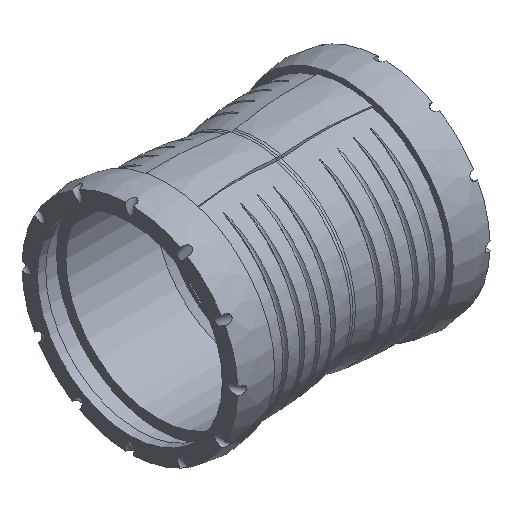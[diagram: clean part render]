
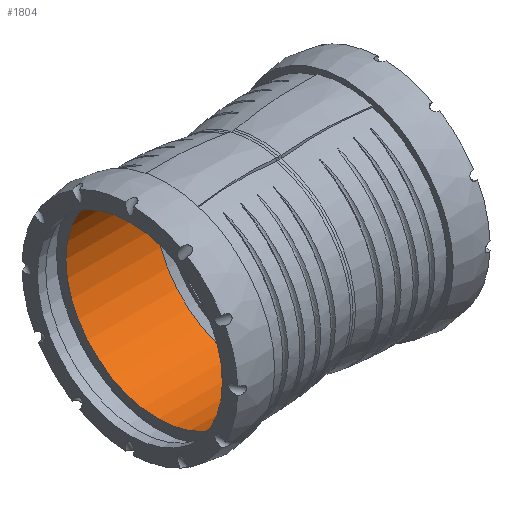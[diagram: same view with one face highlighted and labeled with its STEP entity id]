
A CAD part, isometric view. The second image highlights one B-rep face of the part: STEP entity #1804.
In plain terms, the highlighted cylindrical face has radius 45.45 mm (diameter 90.9 mm), a full revolution.
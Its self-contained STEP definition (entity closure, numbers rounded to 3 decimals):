
#361=FACE_OUTER_BOUND('',#587,.T.);
#398=CYLINDRICAL_SURFACE('',#1952,45.45);
#443=FACE_BOUND('',#588,.T.);
#587=EDGE_LOOP('',(#1563));
#588=EDGE_LOOP('',(#1564));
#661=CIRCLE('',#1951,45.45);
#662=CIRCLE('',#1953,45.45);
#837=VERTEX_POINT('',#7762);
#838=VERTEX_POINT('',#7765);
#1083=EDGE_CURVE('',#837,#837,#661,.T.);
#1084=EDGE_CURVE('',#838,#838,#662,.T.);
#1563=ORIENTED_EDGE('',*,*,#1083,.T.);
#1564=ORIENTED_EDGE('',*,*,#1084,.F.);
#1804=ADVANCED_FACE('',(#361,#443),#398,.F.);
#1951=AXIS2_PLACEMENT_3D('',#7763,#2252,#2253);
#1952=AXIS2_PLACEMENT_3D('',#7764,#2254,#2255);
#1953=AXIS2_PLACEMENT_3D('',#7766,#2256,#2257);
#2252=DIRECTION('center_axis',(-1.,0.,0.));
#2253=DIRECTION('ref_axis',(0.,0.,
-1.));
#2254=DIRECTION('center_axis',(-1.,0.,0.));
#2255=DIRECTION('ref_axis',(0.,-1.,0.));
#2256=DIRECTION('center_axis',(-1.,0.,0.));
#2257=DIRECTION('ref_axis',(0.,0.,
-1.));
#7762=CARTESIAN_POINT('',(-48.3,-45.45,0.));
#7763=CARTESIAN_POINT('Origin',(-48.3,0.,
0.));
#7764=CARTESIAN_POINT('Origin',(-26.25,0.,
0.));
#7765=CARTESIAN_POINT('',(-4.2,-45.45,0.));
#7766=CARTESIAN_POINT('Origin',(-4.2,0.,
0.));
